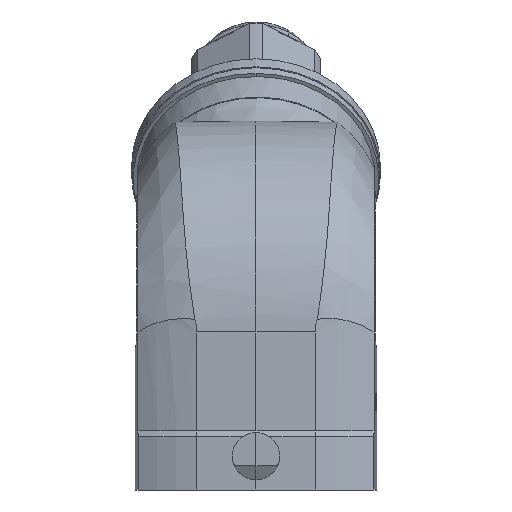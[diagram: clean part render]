
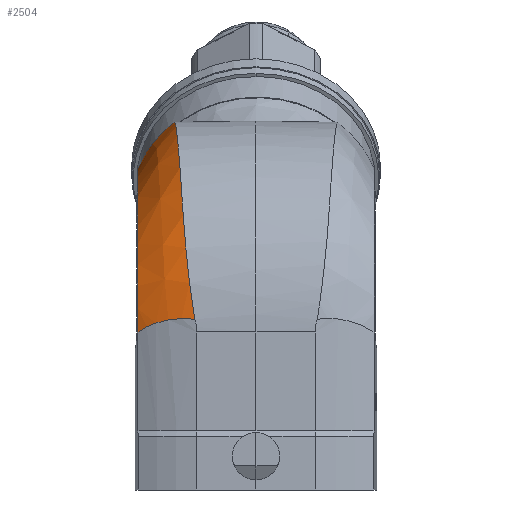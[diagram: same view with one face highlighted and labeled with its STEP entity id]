
A CAD part, left-side view. The second image highlights one B-rep face of the part: STEP entity #2504.
In plain terms, the highlighted free-form (B-spline) face has degree [3, 3] with [5, 15] control points.
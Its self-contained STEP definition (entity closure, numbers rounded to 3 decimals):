
#1896=B_SPLINE_SURFACE_WITH_KNOTS('',3,3,((#32435,#32436,#32437,#32438,
#32439,#32440,#32441,#32442,#32443,#32444,#32445,#32446,#32447,#32448,#32449),
(#32450,#32451,#32452,#32453,#32454,#32455,#32456,#32457,#32458,#32459,
#32460,#32461,#32462,#32463,#32464),(#32465,#32466,#32467,#32468,#32469,
#32470,#32471,#32472,#32473,#32474,#32475,#32476,#32477,#32478,#32479),
(#32480,#32481,#32482,#32483,#32484,#32485,#32486,#32487,#32488,#32489,
#32490,#32491,#32492,#32493,#32494),(#32495,#32496,#32497,#32498,#32499,
#32500,#32501,#32502,#32503,#32504,#32505,#32506,#32507,#32508,#32509)),
 .UNSPECIFIED.,.F.,.F.,.F.,(4,1,4),(4,1,1,1,1,1,1,1,1,1,1,1,4),(0.,0.5,
1.),(0.,0.125,0.188,0.25,0.313,0.375,0.5,0.625,0.688,0.75,0.813,0.875,
1.),.UNSPECIFIED.);
#2504=ADVANCED_FACE('',(#3557),#1896,.T.);
#3557=FACE_OUTER_BOUND('',#4226,.T.);
#4226=EDGE_LOOP('',(#6598,#6599,#6600,#6601));
#6598=ORIENTED_EDGE('',*,*,#11667,.T.);
#6599=ORIENTED_EDGE('',*,*,#11686,.F.);
#6600=ORIENTED_EDGE('',*,*,#11964,.F.);
#6601=ORIENTED_EDGE('',*,*,#11911,.F.);
#9995=VERTEX_POINT('',#30062);
#9996=VERTEX_POINT('',#30081);
#10007=VERTEX_POINT('',#30623);
#10209=VERTEX_POINT('',#31509);
#11667=EDGE_CURVE('',#9996,#9995,#13935,.T.);
#11686=EDGE_CURVE('',#10007,#9995,#13953,.T.);
#11911=EDGE_CURVE('',#9996,#10209,#13977,.T.);
#11964=EDGE_CURVE('',#10209,#10007,#13998,.T.);
#13935=B_SPLINE_CURVE_WITH_KNOTS('',3,(#30063,#30064,#30065,#30066,#30067,
#30068,#30069,#30070,#30071,#30072,#30073,#30074,#30075,#30076,#30077,#30078,
#30079,#30080),.UNSPECIFIED.,.F.,.F.,(4,2,2,2,2,2,2,2,4),(0.,0.125,0.25,
0.375,0.5,0.625,0.75,0.875,1.),.UNSPECIFIED.);
#13953=B_SPLINE_CURVE_WITH_KNOTS('',3,(#30618,#30619,#30620,#30621,#30622),
 .UNSPECIFIED.,.F.,.F.,(4,1,4),(0.,0.574,1.),.UNSPECIFIED.);
#13977=B_SPLINE_CURVE_WITH_KNOTS('',3,(#31511,#31512,#31513,#31514,#31515,
#31516,#31517,#31518,#31519,#31520),.UNSPECIFIED.,.F.,.F.,(4,2,2,2,4),(0.,
0.25,0.375,0.5,1.),.UNSPECIFIED.);
#13998=B_SPLINE_CURVE_WITH_KNOTS('',3,(#32425,#32426,#32427,#32428,#32429,
#32430,#32431,#32432,#32433,#32434),.UNSPECIFIED.,.F.,.F.,(4,1,1,1,1,1,
1,4),(0.,0.125,0.25,0.375,0.5,0.625,0.75,1.),.UNSPECIFIED.);
#30062=CARTESIAN_POINT('',(0.,15.187,58.385));
#30063=CARTESIAN_POINT('',(-36.233,11.411,21.682));
#30064=CARTESIAN_POINT('',(-36.092,11.804,24.042));
#30065=CARTESIAN_POINT('',(-35.756,12.129,26.368));
#30066=CARTESIAN_POINT('',(-34.701,12.678,30.948));
#30067=CARTESIAN_POINT('',(-33.977,12.917,33.215));
#30068=CARTESIAN_POINT('',(-32.131,13.327,37.599));
#30069=CARTESIAN_POINT('',(-31.028,13.472,39.686));
#30070=CARTESIAN_POINT('',(-28.466,13.735,43.643));
#30071=CARTESIAN_POINT('',(-26.992,13.862,45.529));
#30072=CARTESIAN_POINT('',(-23.711,14.105,48.983));
#30073=CARTESIAN_POINT('',(-21.93,14.214,50.531));
#30074=CARTESIAN_POINT('',(-18.089,14.435,53.27));
#30075=CARTESIAN_POINT('',(-16.,14.552,54.472));
#30076=CARTESIAN_POINT('',(-11.658,14.765,56.401));
#30077=CARTESIAN_POINT('',(-9.414,14.852,57.132));
#30078=CARTESIAN_POINT('',(-4.782,15.022,58.127));
#30079=CARTESIAN_POINT('',(-2.377,15.101,58.386));
#30080=CARTESIAN_POINT('',(0.,15.187,58.385));
#30081=CARTESIAN_POINT('',(-36.233,11.411,21.682));
#30618=CARTESIAN_POINT('',(0.,22.,49.65));
#30619=CARTESIAN_POINT('',(0.,21.199,51.644));
#30620=CARTESIAN_POINT('',(0.,19.241,54.889));
#30621=CARTESIAN_POINT('',(0.,16.476,57.449));
#30622=CARTESIAN_POINT('',(0.,15.187,58.385));
#30623=CARTESIAN_POINT('',(0.,22.,49.65));
#31509=CARTESIAN_POINT('',(-32.45,22.,19.3));
#31511=CARTESIAN_POINT('',(-36.233,11.411,21.682));
#31512=CARTESIAN_POINT('',(-36.054,12.358,21.805));
#31513=CARTESIAN_POINT('',(-35.837,13.302,21.845));
#31514=CARTESIAN_POINT('',(-35.452,14.71,21.778));
#31515=CARTESIAN_POINT('',(-35.314,15.178,21.735));
#31516=CARTESIAN_POINT('',(-35.018,16.109,21.608));
#31517=CARTESIAN_POINT('',(-34.853,16.594,21.518));
#31518=CARTESIAN_POINT('',(-34.053,18.794,21.014));
#31519=CARTESIAN_POINT('',(-33.295,20.453,20.308));
#31520=CARTESIAN_POINT('',(-32.45,22.,19.3));
#32425=CARTESIAN_POINT('',(-32.45,22.,19.3));
#32426=CARTESIAN_POINT('',(-32.45,22.,21.356));
#32427=CARTESIAN_POINT('',(-32.001,22.,25.467));
#32428=CARTESIAN_POINT('',(-30.024,22.,31.346));
#32429=CARTESIAN_POINT('',(-26.863,22.,36.68));
#32430=CARTESIAN_POINT('',(-22.694,22.,41.266));
#32431=CARTESIAN_POINT('',(-17.717,22.,44.951));
#32432=CARTESIAN_POINT('',(-10.28,22.,48.548));
#32433=CARTESIAN_POINT('',(-4.111,22.,49.65));
#32434=CARTESIAN_POINT('',(0.,22.,49.65));
#32435=CARTESIAN_POINT('',(-32.45,22.,19.3));
#32436=CARTESIAN_POINT('',(-32.45,22.,21.088));
#32437=CARTESIAN_POINT('',(-32.195,22.,23.871));
#32438=CARTESIAN_POINT('',(-31.249,22.,27.653));
#32439=CARTESIAN_POINT('',(-30.226,22.,30.48));
#32440=CARTESIAN_POINT('',(-28.877,22.,33.256));
#32441=CARTESIAN_POINT('',(-26.657,22.,36.824));
#32442=CARTESIAN_POINT('',(-23.111,22.,40.916));
#32443=CARTESIAN_POINT('',(-18.737,22.,44.232));
#32444=CARTESIAN_POINT('',(-14.922,22.,46.308));
#32445=CARTESIAN_POINT('',(-11.954,22.,47.57));
#32446=CARTESIAN_POINT('',(-8.931,22.,48.527));
#32447=CARTESIAN_POINT('',(-4.888,22.,49.412));
#32448=CARTESIAN_POINT('',(-1.912,22.,49.65));
#32449=CARTESIAN_POINT('',(0.,22.,49.65));
#32450=CARTESIAN_POINT('',(-33.385,20.287,19.3));
#32451=CARTESIAN_POINT('',(-33.405,20.319,21.224));
#32452=CARTESIAN_POINT('',(-33.158,20.368,24.188));
#32453=CARTESIAN_POINT('',(-32.207,20.442,28.185));
#32454=CARTESIAN_POINT('',(-31.173,20.504,31.175));
#32455=CARTESIAN_POINT('',(-29.81,20.57,34.097));
#32456=CARTESIAN_POINT('',(-27.561,20.661,37.847));
#32457=CARTESIAN_POINT('',(-23.962,20.778,42.157));
#32458=CARTESIAN_POINT('',(-19.516,20.89,45.669));
#32459=CARTESIAN_POINT('',(-15.605,20.975,47.905));
#32460=CARTESIAN_POINT('',(-12.551,21.036,49.278));
#32461=CARTESIAN_POINT('',(-9.419,21.09,50.337));
#32462=CARTESIAN_POINT('',(-5.189,21.149,51.333));
#32463=CARTESIAN_POINT('',(-2.046,21.182,51.626));
#32464=CARTESIAN_POINT('',(0.,21.199,51.644));
#32465=CARTESIAN_POINT('',(-34.975,16.709,19.3));
#32466=CARTESIAN_POINT('',(-35.025,16.788,21.482));
#32467=CARTESIAN_POINT('',(-34.787,16.917,24.785));
#32468=CARTESIAN_POINT('',(-33.824,17.108,29.179));
#32469=CARTESIAN_POINT('',(-32.77,17.266,32.47));
#32470=CARTESIAN_POINT('',(-31.388,17.435,35.66));
#32471=CARTESIAN_POINT('',(-29.099,17.665,39.739));
#32472=CARTESIAN_POINT('',(-25.427,17.961,44.455));
#32473=CARTESIAN_POINT('',(-20.884,18.238,48.332));
#32474=CARTESIAN_POINT('',(-16.819,18.443,50.872));
#32475=CARTESIAN_POINT('',(-13.626,18.588,52.457));
#32476=CARTESIAN_POINT('',(-10.307,18.715,53.711));
#32477=CARTESIAN_POINT('',(-5.743,18.848,54.925));
#32478=CARTESIAN_POINT('',(-2.296,18.917,55.321));
#32479=CARTESIAN_POINT('',(0.,18.95,55.372));
#32480=CARTESIAN_POINT('',(-35.969,12.922,19.3));
#32481=CARTESIAN_POINT('',(-36.023,13.032,21.702));
#32482=CARTESIAN_POINT('',(-35.767,13.213,25.284));
#32483=CARTESIAN_POINT('',(-34.781,13.477,29.991));
#32484=CARTESIAN_POINT('',(-33.702,13.688,33.512));
#32485=CARTESIAN_POINT('',(-32.305,13.908,36.896));
#32486=CARTESIAN_POINT('',(-30.007,14.205,41.211));
#32487=CARTESIAN_POINT('',(-26.326,14.576,46.224));
#32488=CARTESIAN_POINT('',(-21.779,14.91,50.373));
#32489=CARTESIAN_POINT('',(-17.641,15.145,53.149));
#32490=CARTESIAN_POINT('',(-14.375,15.301,54.893));
#32491=CARTESIAN_POINT('',(-10.941,15.432,56.295));
#32492=CARTESIAN_POINT('',(-6.15,15.565,57.672));
#32493=CARTESIAN_POINT('',(-2.486,15.619,58.137));
#32494=CARTESIAN_POINT('',(0.,15.636,58.195));
#32495=CARTESIAN_POINT('',(-36.308,11.,19.3));
#32496=CARTESIAN_POINT('',(-36.356,11.126,21.801));
#32497=CARTESIAN_POINT('',(-36.085,11.331,25.503));
#32498=CARTESIAN_POINT('',(-35.083,11.626,30.341));
#32499=CARTESIAN_POINT('',(-33.99,11.856,33.955));
#32500=CARTESIAN_POINT('',(-32.586,12.092,37.415));
#32501=CARTESIAN_POINT('',(-30.29,12.409,41.819));
#32502=CARTESIAN_POINT('',(-26.621,12.797,46.946));
#32503=CARTESIAN_POINT('',(-22.093,13.137,51.2));
#32504=CARTESIAN_POINT('',(-17.938,13.367,54.069));
#32505=CARTESIAN_POINT('',(-14.653,13.516,55.874));
#32506=CARTESIAN_POINT('',(-11.182,13.636,57.331));
#32507=CARTESIAN_POINT('',(-6.308,13.754,58.77));
#32508=CARTESIAN_POINT('',(-2.561,13.794,59.255));
#32509=CARTESIAN_POINT('',(0.,13.798,59.308));
